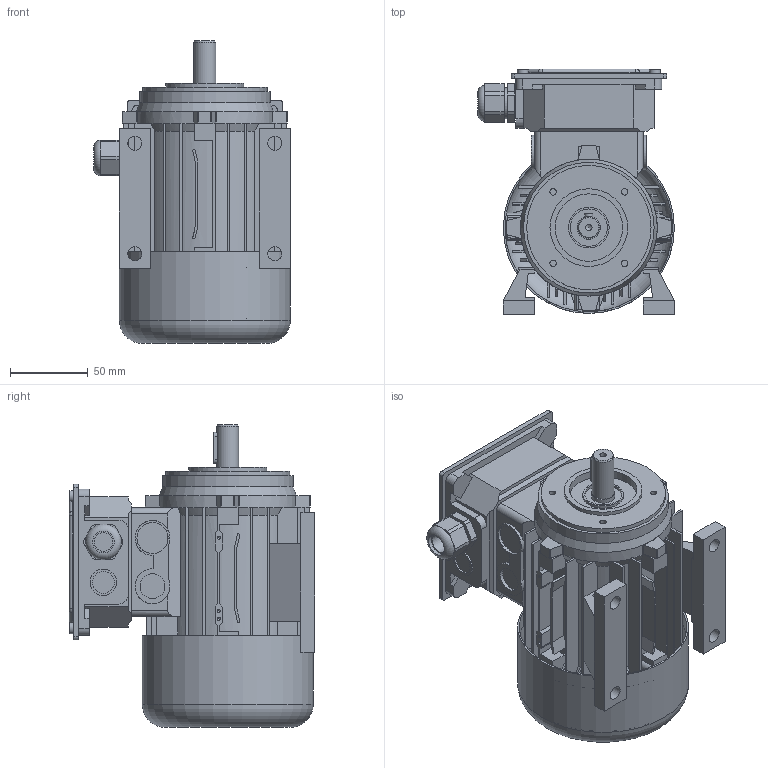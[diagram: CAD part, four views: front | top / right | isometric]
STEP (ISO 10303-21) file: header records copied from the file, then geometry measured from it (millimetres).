
FILE_DESCRIPTION(/* description */ (''),/* implementation_level */ '2;1');
FILE_NAME(/* name */ 'C:\Users\Public\Documents\Autodesk\Inventor LT 2014\Workspace\Componenti_ecoPM\1 - ECO5_56 (TG3)\ECO5_56x_xxA1_xx.stp',/* time_stamp */ '2021-07-28T15:35:34+02:00',/* author */ ('marcor'),/* organization */ (''),/* preprocessor_version */ 'ST-DEVELOPER v15.2',/* originating_system */ 'Autodesk Inventor LT ',/* authorisation */ '');
FILE_SCHEMA (('AUTOMOTIVE_DESIGN { 1 0 10303 214 3 1 1 }'));
Length unit declared in the file: millimetre
Products named in the file (1): ECO5_56x_xxA1_xx_FULL
Bounding box: 126.5 x 158 x 194.75 mm (x, y, z)
Volume: 1304941.7 mm3; surface area: 211397.5 mm2
Topology: 1 solids, 9 shells, 677 faces, 1837 edges, 1203 vertices
Faces by surface type: plane 444, cylinder 163, cone 58, bspline 8, torus 4
Full cylindrical faces by diameter (mm): 2 x3, 3.2 x8, 4.134 x5, 7 x8, 9 x4, 12 x1, 13.95 x2, 14 x2, 14.98 x1, 16 x2, 17 x2, 18 x1, 20 x4, 24 x1, 26.2 x1, 26.3 x1, 43.4 x1, 50 x1, 75 x1, 78 x1, 80 x1, 84 x2, 84.8 x1, 88 x1, 107.9 x1, 108.6 x1, 110 x1
Entity records: 20792 total; most frequent: CARTESIAN_POINT 4190, ORIENTED_EDGE 3424, DIRECTION 3400, EDGE_CURVE 1712, VERTEX_POINT 1164, AXIS2_PLACEMENT_3D 1134, LINE 1132, VECTOR 1132
